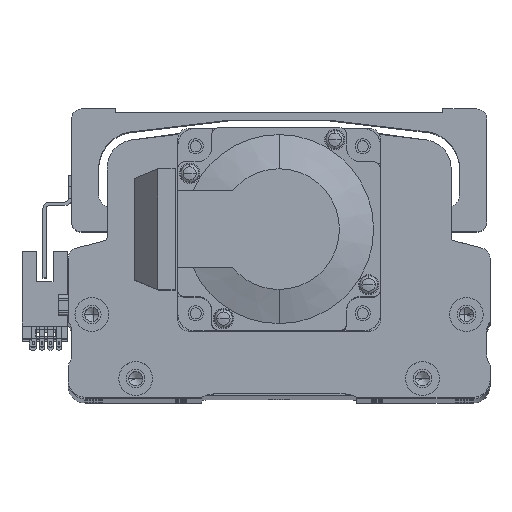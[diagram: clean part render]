
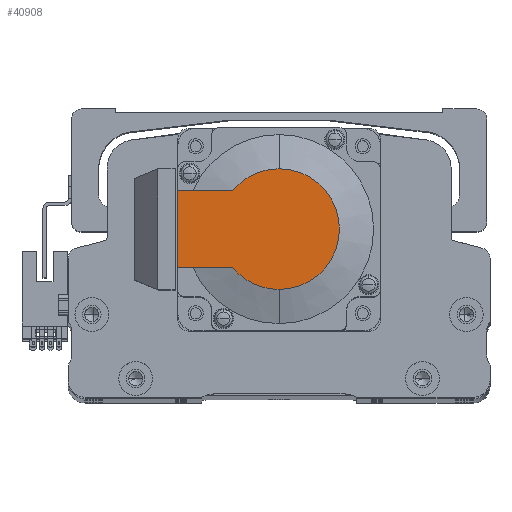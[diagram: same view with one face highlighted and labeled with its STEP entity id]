
A CAD part, top view. The second image highlights one B-rep face of the part: STEP entity #40908.
In plain terms, the highlighted planar face has unit normal (0, 0, 1) as drawn and (-1, 0, 0) by its records, which use the part's own axes.
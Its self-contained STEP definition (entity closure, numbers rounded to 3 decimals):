
#692 = CIRCLE ( 'NONE', #27138, 17.881 ) ;
#1194 = CARTESIAN_POINT ( 'NONE',  ( -118.5, 13.735, 11.45 ) ) ;
#1399 = VERTEX_POINT ( 'NONE', #41922 ) ;
#2183 = AXIS2_PLACEMENT_3D ( 'NONE', #46486, #20758, #50819 ) ;
#2188 = EDGE_CURVE ( 'NONE', #7645, #2438, #29085, .T. ) ;
#2438 = VERTEX_POINT ( 'NONE', #36738 ) ;
#3536 = DIRECTION ( 'NONE',  ( 0., 0., -1. ) ) ;
#5216 = CIRCLE ( 'NONE', #2183, 17.881 ) ;
#6246 = VERTEX_POINT ( 'NONE', #8272 ) ;
#6461 = ORIENTED_EDGE ( 'NONE', *, *, #14933, .T. ) ;
#6577 = ORIENTED_EDGE ( 'NONE', *, *, #2188, .F. ) ;
#6751 = ORIENTED_EDGE ( 'NONE', *, *, #9984, .F. ) ;
#7645 = VERTEX_POINT ( 'NONE', #50990 ) ;
#8272 = CARTESIAN_POINT ( 'NONE',  ( -118.5, 0., -17.881 ) ) ;
#9734 = AXIS2_PLACEMENT_3D ( 'NONE', #50714, #24987, #55039 ) ;
#9984 = EDGE_CURVE ( 'NONE', #2438, #13568, #12031, .T. ) ;
#12003 = CARTESIAN_POINT ( 'NONE',  ( -118.5, -8.941, -11.45 ) ) ;
#12031 = LINE ( 'NONE', #13110, #34894 ) ;
#13110 = CARTESIAN_POINT ( 'NONE',  ( -118.5, 0., 11.45 ) ) ;
#13568 = VERTEX_POINT ( 'NONE', #1194 ) ;
#14933 = EDGE_CURVE ( 'NONE', #41265, #6246, #28234, .T. ) ;
#16184 = FACE_OUTER_BOUND ( 'NONE', #30967, .T. ) ;
#16869 = CARTESIAN_POINT ( 'NONE',  ( -118.5, 13.735, -11.45 ) ) ;
#17665 = VECTOR ( 'NONE', #41192, 1000. ) ;
#17830 = ORIENTED_EDGE ( 'NONE', *, *, #42203, .T. ) ;
#19872 = EDGE_CURVE ( 'NONE', #7645, #41265, #27809, .T. ) ;
#20758 = DIRECTION ( 'NONE',  ( -1., 0., 0. ) ) ;
#21763 = DIRECTION ( 'NONE',  ( 0., -1., 0. ) ) ;
#22217 = CARTESIAN_POINT ( 'NONE',  ( -118.5, 0., 0. ) ) ;
#24987 = DIRECTION ( 'NONE',  ( -1., 0., 0. ) ) ;
#25215 = ORIENTED_EDGE ( 'NONE', *, *, #19872, .T. ) ;
#26511 = DIRECTION ( 'NONE',  ( 0., 0., -1. ) ) ;
#27138 = AXIS2_PLACEMENT_3D ( 'NONE', #55048, #29313, #3536 ) ;
#27256 = ORIENTED_EDGE ( 'NONE', *, *, #54366, .T. ) ;
#27809 = LINE ( 'NONE', #12003, #47916 ) ;
#28234 = CIRCLE ( 'NONE', #39384, 17.881 ) ;
#29085 = LINE ( 'NONE', #41368, #17665 ) ;
#29313 = DIRECTION ( 'NONE',  ( -1., 0., 0. ) ) ;
#30967 = EDGE_LOOP ( 'NONE', ( #25215, #6461, #27256, #17830, #6751, #6577 ) ) ;
#33434 = PLANE ( 'NONE',  #9734 ) ;
#34894 = VECTOR ( 'NONE', #21763, 1000. ) ;
#36738 = CARTESIAN_POINT ( 'NONE',  ( -118.5, 30., 11.45 ) ) ;
#39384 = AXIS2_PLACEMENT_3D ( 'NONE', #22217, #52277, #26511 ) ;
#40908 = ADVANCED_FACE ( 'NONE', ( #16184 ), #33434, .T. ) ;
#41192 = DIRECTION ( 'NONE',  ( 0., 0., 1. ) ) ;
#41265 = VERTEX_POINT ( 'NONE', #16869 ) ;
#41368 = CARTESIAN_POINT ( 'NONE',  ( -118.5, 30., 25. ) ) ;
#41922 = CARTESIAN_POINT ( 'NONE',  ( -118.5, 0., 17.881 ) ) ;
#42203 = EDGE_CURVE ( 'NONE', #1399, #13568, #692, .T. ) ;
#46486 = CARTESIAN_POINT ( 'NONE',  ( -118.5, 0., 0. ) ) ;
#47916 = VECTOR ( 'NONE', #55003, 1000. ) ;
#50714 = CARTESIAN_POINT ( 'NONE',  ( -118.5, -8.941, 0. ) ) ;
#50819 = DIRECTION ( 'NONE',  ( 0., 0., -1. ) ) ;
#50990 = CARTESIAN_POINT ( 'NONE',  ( -118.5, 30., -11.45 ) ) ;
#52277 = DIRECTION ( 'NONE',  ( -1., 0., 0. ) ) ;
#54366 = EDGE_CURVE ( 'NONE', #6246, #1399, #5216, .T. ) ;
#55003 = DIRECTION ( 'NONE',  ( 0., -1., 0. ) ) ;
#55039 = DIRECTION ( 'NONE',  ( 0., 0., 1. ) ) ;
#55048 = CARTESIAN_POINT ( 'NONE',  ( -118.5, 0., 0. ) ) ;
